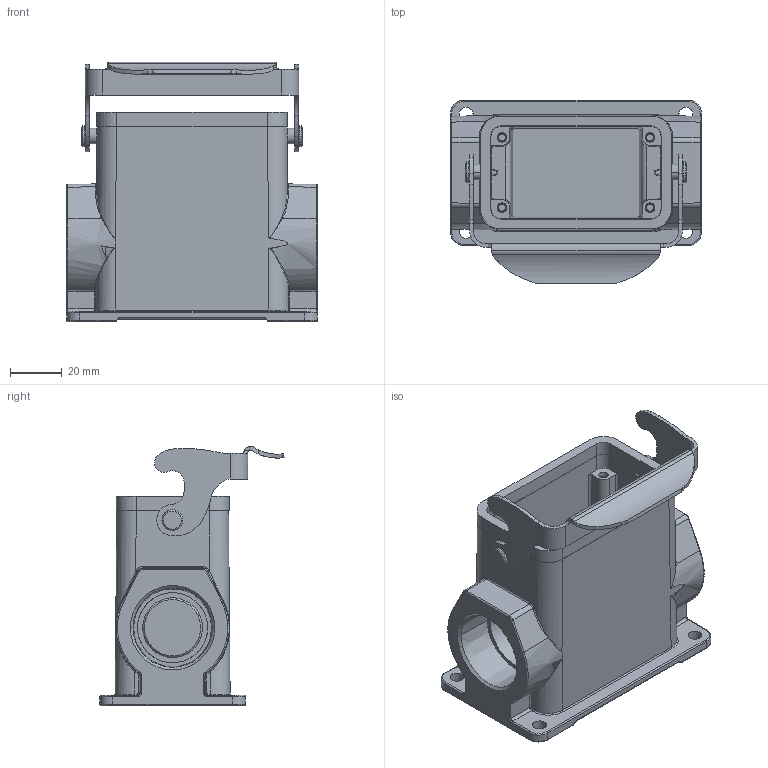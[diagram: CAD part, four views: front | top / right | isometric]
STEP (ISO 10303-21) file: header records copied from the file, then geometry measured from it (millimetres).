
FILE_DESCRIPTION (( 'STEP AP203' ), '1' );
FILE_NAME ('H10B-SGRH-LB-M32.STEP', '2020-11-21T05:18:02', ( '' ), ( '' ), 'SwSTEP 2.0', 'SolidWorks 2016', '' );
FILE_SCHEMA (( 'CONFIG_CONTROL_DESIGN' ));
Length unit declared in the file: millimetre
Products named in the file (5): maoding; 10bh-surface-m-highconstruction; H10B-SGRH-LB-M32; 10bbuxiugangdankou; 10bmifengquan
Assembly tree (5 placements, depth 2):
  H10B-SGRH-LB-M32
    10bmifengquan
    10bbuxiugangdankou
    maoding  x2
    10bh-surface-m-highconstruction
Bounding box: 96.5 x 70.91 x 99.79 mm (x, y, z)
Volume: 129361.5 mm3; surface area: 59185.7 mm2
Topology: 5 solids, 5 shells, 458 faces, 1154 edges, 726 vertices
Faces by surface type: cylinder 186, plane 128, bspline 80, cone 64
Entity records: 20011 total; most frequent: CARTESIAN_POINT 9688, ORIENTED_EDGE 2200, DIRECTION 1841, EDGE_CURVE 1100, VERTEX_POINT 692, AXIS2_PLACEMENT_3D 671, VECTOR 499, LINE 499
